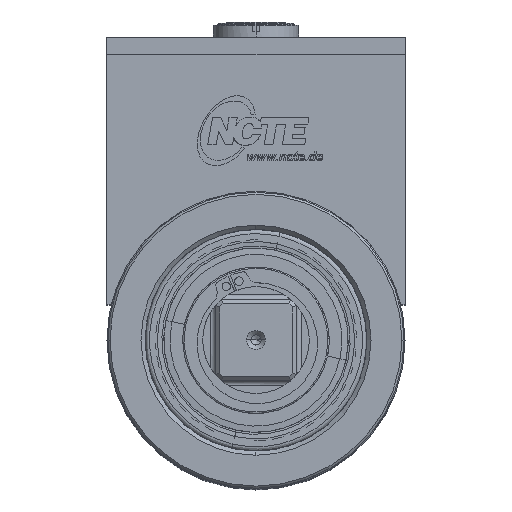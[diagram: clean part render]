
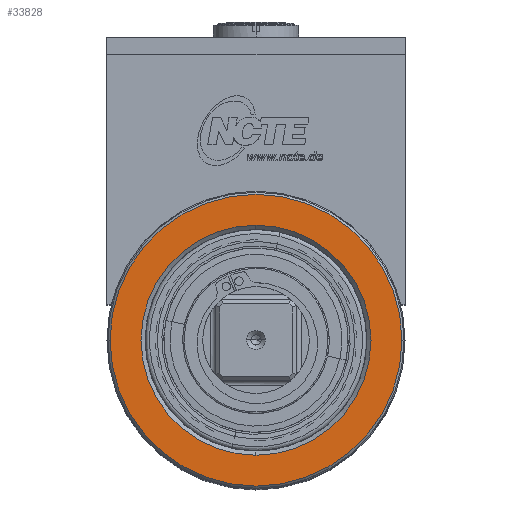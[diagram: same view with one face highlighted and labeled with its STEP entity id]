
A CAD part, top view. The second image highlights one B-rep face of the part: STEP entity #33828.
In plain terms, the highlighted planar face has unit normal (0, 0, -1).
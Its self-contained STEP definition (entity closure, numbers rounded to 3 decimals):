
#230 = EDGE_LOOP ( 'NONE', ( #3582, #570 ) ) ;
#570 = ORIENTED_EDGE ( 'NONE', *, *, #8803, .F. ) ;
#1408 = CIRCLE ( 'NONE', #16271, 34.25 ) ;
#1439 = DIRECTION ( 'NONE',  ( 0., 0., -1. ) ) ;
#2366 = DIRECTION ( 'NONE',  ( -1., 0., 0. ) ) ;
#2879 = CIRCLE ( 'NONE', #6239, 27. ) ;
#3582 = ORIENTED_EDGE ( 'NONE', *, *, #23500, .F. ) ;
#3604 = DIRECTION ( 'NONE',  ( 1., 0., 0. ) ) ;
#4183 = CIRCLE ( 'NONE', #18881, 27. ) ;
#5152 = DIRECTION ( 'NONE',  ( 0., -1., 0. ) ) ;
#5557 = CARTESIAN_POINT ( 'NONE',  ( 0., 0., 20. ) ) ;
#6239 = AXIS2_PLACEMENT_3D ( 'NONE', #21026, #7818, #5152 ) ;
#7818 = DIRECTION ( 'NONE',  ( 0., 0., -1. ) ) ;
#8803 = EDGE_CURVE ( 'NONE', #27988, #27237, #1408, .T. ) ;
#8981 = FACE_BOUND ( 'NONE', #25373, .T. ) ;
#10974 = CARTESIAN_POINT ( 'NONE',  ( -34.25, 0., 20. ) ) ;
#12803 = CARTESIAN_POINT ( 'NONE',  ( 0., 0., 20. ) ) ;
#13661 = CIRCLE ( 'NONE', #21472, 34.25 ) ;
#13944 = PLANE ( 'NONE',  #32760 ) ;
#14956 = ORIENTED_EDGE ( 'NONE', *, *, #32780, .F. ) ;
#15454 = DIRECTION ( 'NONE',  ( 0., 0., 1. ) ) ;
#16271 = AXIS2_PLACEMENT_3D ( 'NONE', #5557, #24086, #21560 ) ;
#18082 = EDGE_CURVE ( 'NONE', #31558, #19944, #4183, .T. ) ;
#18881 = AXIS2_PLACEMENT_3D ( 'NONE', #27719, #1439, #29901 ) ;
#19129 = CARTESIAN_POINT ( 'NONE',  ( 0., 0., 20. ) ) ;
#19669 = FACE_OUTER_BOUND ( 'NONE', #230, .T. ) ;
#19944 = VERTEX_POINT ( 'NONE', #24352 ) ;
#21026 = CARTESIAN_POINT ( 'NONE',  ( 0., 0., 20. ) ) ;
#21472 = AXIS2_PLACEMENT_3D ( 'NONE', #12803, #15454, #2366 ) ;
#21560 = DIRECTION ( 'NONE',  ( -1., 0., 0. ) ) ;
#23500 = EDGE_CURVE ( 'NONE', #27237, #27988, #13661, .T. ) ;
#24086 = DIRECTION ( 'NONE',  ( 0., 0., 1. ) ) ;
#24352 = CARTESIAN_POINT ( 'NONE',  ( 0., -27., 20. ) ) ;
#25373 = EDGE_LOOP ( 'NONE', ( #14956, #26140 ) ) ;
#26140 = ORIENTED_EDGE ( 'NONE', *, *, #18082, .F. ) ;
#27237 = VERTEX_POINT ( 'NONE', #10974 ) ;
#27438 = CARTESIAN_POINT ( 'NONE',  ( 0., 27., 20. ) ) ;
#27719 = CARTESIAN_POINT ( 'NONE',  ( 0., 0., 20. ) ) ;
#27988 = VERTEX_POINT ( 'NONE', #31676 ) ;
#29901 = DIRECTION ( 'NONE',  ( 0., -1., 0. ) ) ;
#31558 = VERTEX_POINT ( 'NONE', #27438 ) ;
#31676 = CARTESIAN_POINT ( 'NONE',  ( 34.25, 0., 20. ) ) ;
#32220 = DIRECTION ( 'NONE',  ( 0., 0., 1. ) ) ;
#32760 = AXIS2_PLACEMENT_3D ( 'NONE', #19129, #32220, #3604 ) ;
#32780 = EDGE_CURVE ( 'NONE', #19944, #31558, #2879, .T. ) ;
#33828 = ADVANCED_FACE ( 'F', ( #8981, #19669 ), #13944, .F. ) ;
